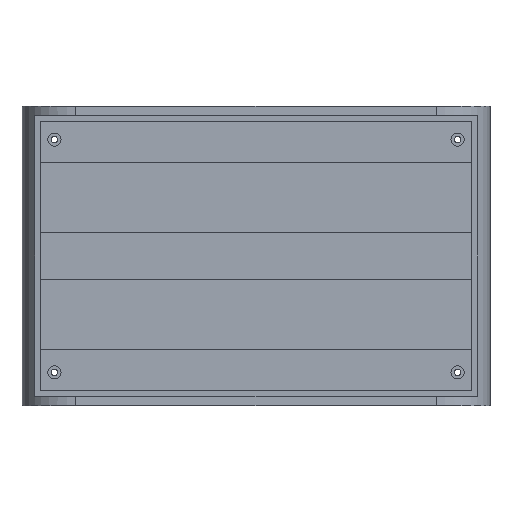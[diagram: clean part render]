
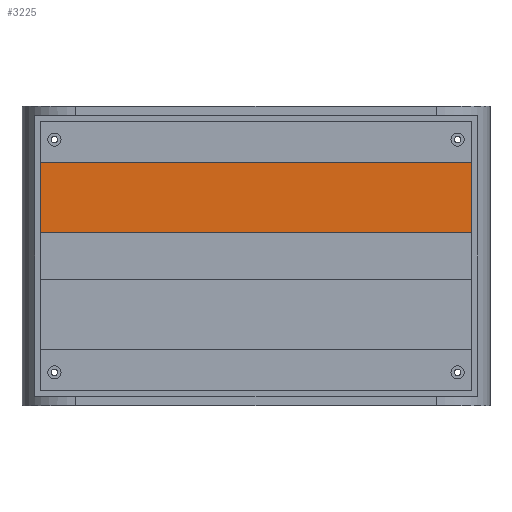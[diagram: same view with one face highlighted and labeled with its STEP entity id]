
A CAD part, front view. The second image highlights one B-rep face of the part: STEP entity #3225.
In plain terms, the highlighted planar face has unit normal (0, -1, 0).
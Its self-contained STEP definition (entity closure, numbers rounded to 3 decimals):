
#41 = AXIS2_PLACEMENT_3D ( 'NONE', #2074, #1696, #4264 ) ;
#199 = ORIENTED_EDGE ( 'NONE', *, *, #1990, .T. ) ;
#200 = FACE_OUTER_BOUND ( 'NONE', #3556, .T. ) ;
#336 = ORIENTED_EDGE ( 'NONE', *, *, #2203, .T. ) ;
#347 = VERTEX_POINT ( 'NONE', #1783 ) ;
#552 = VECTOR ( 'NONE', #1505, 1000. ) ;
#587 = VECTOR ( 'NONE', #2181, 1000. ) ;
#690 = LINE ( 'NONE', #2267, #4469 ) ;
#1397 = VERTEX_POINT ( 'NONE', #3993 ) ;
#1505 = DIRECTION ( 'NONE',  ( 1., 0., 0. ) ) ;
#1506 = CARTESIAN_POINT ( 'NONE',  ( -101., -27., 11. ) ) ;
#1696 = DIRECTION ( 'NONE',  ( 0., -1., 0. ) ) ;
#1741 = LINE ( 'NONE', #1506, #552 ) ;
#1772 = ORIENTED_EDGE ( 'NONE', *, *, #4445, .T. ) ;
#1783 = CARTESIAN_POINT ( 'NONE',  ( 101., -27., 43.7 ) ) ;
#1973 = EDGE_CURVE ( 'NONE', #1397, #4546, #690, .T. ) ;
#1990 = EDGE_CURVE ( 'NONE', #2002, #347, #3594, .T. ) ;
#2002 = VERTEX_POINT ( 'NONE', #2175 ) ;
#2074 = CARTESIAN_POINT ( 'NONE',  ( 0., -27., 0. ) ) ;
#2109 = CARTESIAN_POINT ( 'NONE',  ( -101., -27., 11. ) ) ;
#2175 = CARTESIAN_POINT ( 'NONE',  ( 101., -27., 11. ) ) ;
#2181 = DIRECTION ( 'NONE',  ( 0., 0., 1. ) ) ;
#2188 = CARTESIAN_POINT ( 'NONE',  ( 101., -27., 43.7 ) ) ;
#2189 = VECTOR ( 'NONE', #2802, 1000. ) ;
#2203 = EDGE_CURVE ( 'NONE', #4546, #2002, #1741, .T. ) ;
#2244 = DIRECTION ( 'NONE',  ( 0., 0., -1. ) ) ;
#2267 = CARTESIAN_POINT ( 'NONE',  ( -101., -27., 43.7 ) ) ;
#2424 = CARTESIAN_POINT ( 'NONE',  ( -101., -27., 43.7 ) ) ;
#2802 = DIRECTION ( 'NONE',  ( -1., 0., 0. ) ) ;
#3158 = LINE ( 'NONE', #2424, #2189 ) ;
#3172 = PLANE ( 'NONE',  #41 ) ;
#3225 = ADVANCED_FACE ( 'NONE', ( #200 ), #3172, .T. ) ;
#3556 = EDGE_LOOP ( 'NONE', ( #3954, #336, #199, #1772 ) ) ;
#3594 = LINE ( 'NONE', #2188, #587 ) ;
#3954 = ORIENTED_EDGE ( 'NONE', *, *, #1973, .T. ) ;
#3993 = CARTESIAN_POINT ( 'NONE',  ( -101., -27., 43.7 ) ) ;
#4264 = DIRECTION ( 'NONE',  ( 0., 0., -1. ) ) ;
#4445 = EDGE_CURVE ( 'NONE', #347, #1397, #3158, .T. ) ;
#4469 = VECTOR ( 'NONE', #2244, 1000. ) ;
#4546 = VERTEX_POINT ( 'NONE', #2109 ) ;
